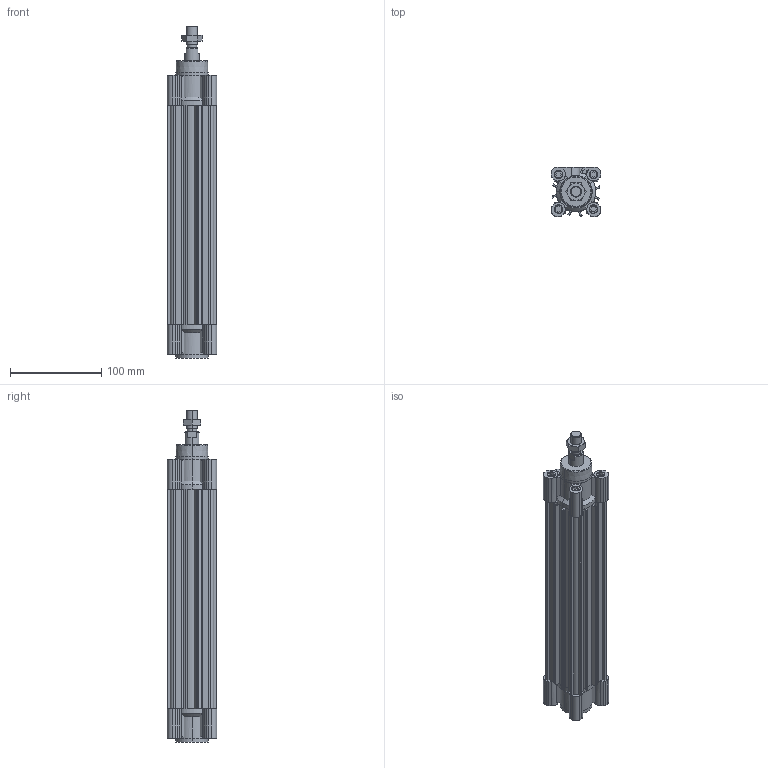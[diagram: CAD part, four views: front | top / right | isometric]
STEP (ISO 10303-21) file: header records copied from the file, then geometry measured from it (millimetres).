
FILE_DESCRIPTION (( 'STEP AP214' ), '1' );
FILE_NAME ('CP96SDB40-200C.step.step', '2020-10-27T18:03:10', ( '' ), ( '' ), 'SwSTEP 2.0', 'SolidWorks 2020', '' );
FILE_SCHEMA (( 'AUTOMOTIVE_DESIGN' ));
Length unit declared in the file: millimetre
Products named in the file (7): CP96SDB40-200C.step_CP96_Cylinder_40; CP96SDB40-200C.step; CP96SDB40-200C.step_40_Rod_Cover; CP96SDB40-200C.step_40_Head_Cover_40; CP96SDB40-200C.step_Rod_Nut_12x1.25; CP96SDB40-200C.step_C96_Rod_40; CP96SDB40-200C.step_Tie-rod_40
Assembly tree (9 placements, depth 2):
  CP96SDB40-200C.step
    CP96SDB40-200C.step_CP96_Cylinder_40
    CP96SDB40-200C.step_40_Rod_Cover
    CP96SDB40-200C.step_40_Head_Cover_40
    CP96SDB40-200C.step_Tie-rod_40  x4
    CP96SDB40-200C.step_C96_Rod_40
    CP96SDB40-200C.step_Rod_Nut_12x1.25
Bounding box: 54 x 54 x 363 mm (x, y, z)
Volume: 518805.8 mm3; surface area: 211151.2 mm2
Topology: 9 solids, 9 shells, 499 faces, 1288 edges, 840 vertices
Faces by surface type: plane 269, cylinder 172, cone 56, torus 2
Entity records: 13444 total; most frequent: CARTESIAN_POINT 2525, DIRECTION 2274, ORIENTED_EDGE 2196, EDGE_CURVE 1098, AXIS2_PLACEMENT_3D 801, VERTEX_POINT 720, VECTOR 672, LINE 672
